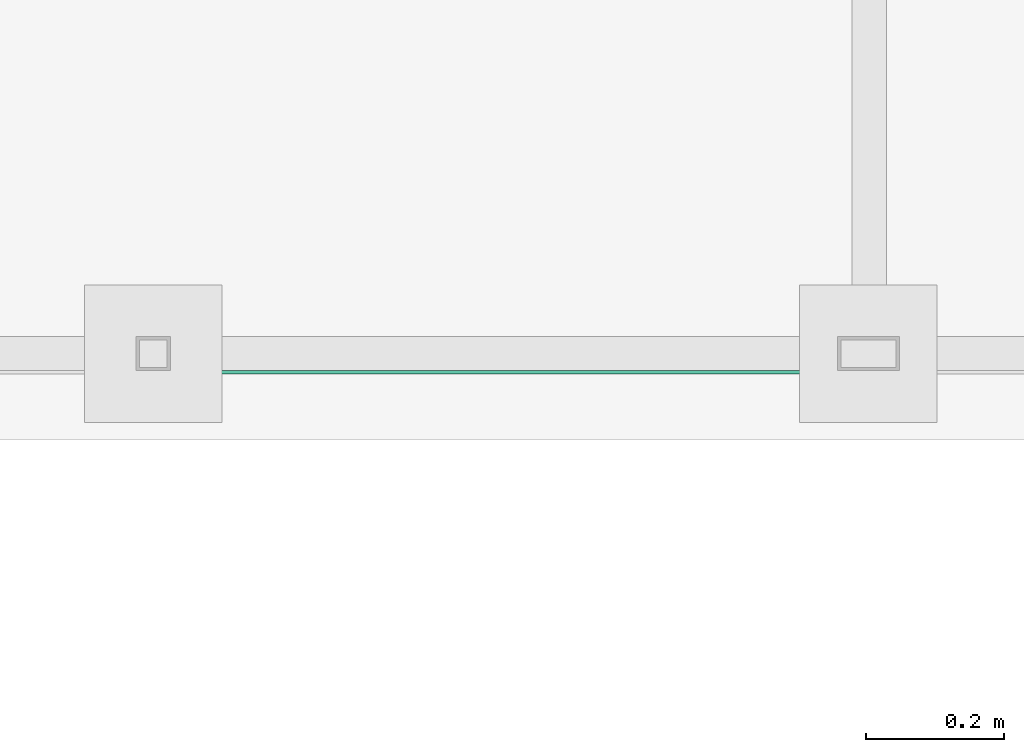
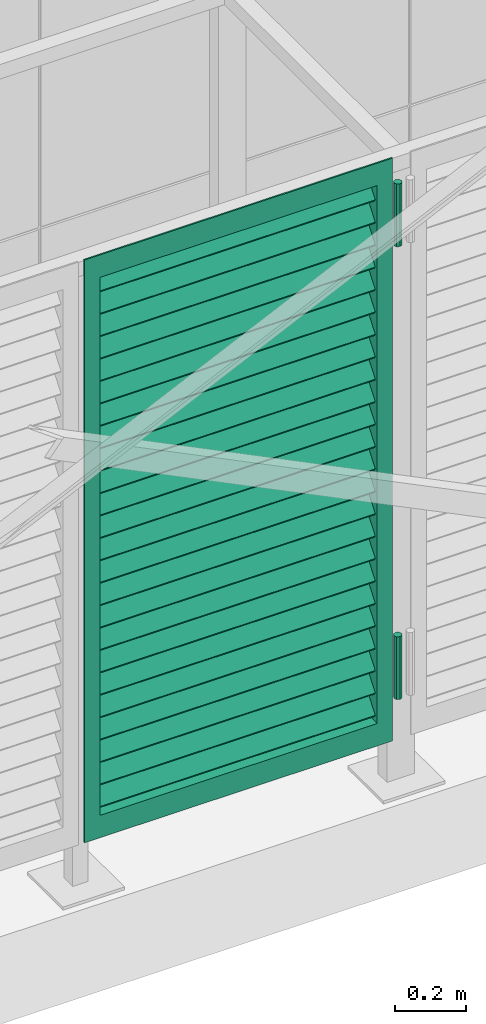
# One storey, part 177 of 418: 1 distribution flow element.
"""IFC2X3 building model written with IfcOpenShell, lengths in millimetres."""

from ifc_helpers import new_model, entity, si_unit, converted_unit, derived_unit, money_unit, direction, frame, origin_with_axes, place, context, subcontext, project, spatial, faceted_brep, source, transform, mapped, material, material_list, type_object, element, save


model = new_model("IFC2X3")

# Units and contexts
model_context = context("Model", 3, precision=0.01, world=origin_with_axes(), true_north=direction((0.0, 1.0)))
body_context = subcontext(model_context, "Body", "Model", "MODEL_VIEW")
ifc_project = project(units=[si_unit("LENGTHUNIT", "METRE", prefix="MILLI"), si_unit("AREAUNIT", "SQUARE_METRE"), si_unit("VOLUMEUNIT", "CUBIC_METRE"), converted_unit("PLANEANGLEUNIT", "DEGREE", entity("IfcPlaneAngleMeasure", 0.0174532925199), si_unit("PLANEANGLEUNIT", "RADIAN"), dimensions=[0, 0, 0, 0, 0, 0, 0]), si_unit("SOLIDANGLEUNIT", "STERADIAN"), money_unit("EUR"), converted_unit("TIMEUNIT", "Year", entity("IfcTimeMeasure", 31556926.0), si_unit("TIMEUNIT", "SECOND"), dimensions=[0, 0, 1, 0, 0, 0, 0]), si_unit("MASSUNIT", "GRAM", prefix="KILO"), si_unit("THERMODYNAMICTEMPERATUREUNIT", "DEGREE_CELSIUS"), si_unit("LUMINOUSINTENSITYUNIT", "LUMEN"), si_unit("ENERGYUNIT", "JOULE", prefix="MEGA"), derived_unit("THERMALCONDUCTANCEUNIT", [(si_unit("POWERUNIT", "WATT"), 1), (si_unit("LENGTHUNIT", "METRE"), -1), (si_unit("THERMODYNAMICTEMPERATUREUNIT", "KELVIN"), -1)]), derived_unit("SPECIFICHEATCAPACITYUNIT", [(si_unit("ENERGYUNIT", "JOULE"), 1), (si_unit("MASSUNIT", "GRAM", prefix="KILO"), -1), (si_unit("THERMODYNAMICTEMPERATUREUNIT", "KELVIN"), -1)]), derived_unit("MASSDENSITYUNIT", [(si_unit("MASSUNIT", "GRAM", prefix="KILO"), 1), (si_unit("VOLUMEUNIT", "CUBIC_METRE"), -1)])], contexts=[model_context])

# Site, building, storey
site_placement = place(None, origin_with_axes())
site = spatial("IfcSite", under=ifc_project, at=site_placement, Name="Paldiski mnt 245/1, Tallinn, Harjumaa", CompositionType="COMPLEX")
building_placement = place(site_placement, origin_with_axes())
building = spatial("IfcBuilding", under=site, at=building_placement, Name="RKAS Hoone üldnimetus (kasutust iseloomustav) -> IFC Project Manager -> SOLIBRI", CompositionType="ELEMENT")
storey_placement = place(building_placement, origin_with_axes())
storey = spatial("IfcBuildingStorey", under=building, at=storey_placement, Name="Esimene korrus", CompositionType="ELEMENT", Elevation=0.0)

# Distribution flow element
ifc_material_1 = material(Name="Teras")
ifc_material_2 = material(Name="ET-05_Teras")
ifc_material_list = material_list([ifc_material_1, ifc_material_2])
valve_type = type_object("IfcValveType", Name="Rest_1", PredefinedType="USERDEFINED")
shared_shape = source(origin_with_axes(), body_context, "Body", "Brep", [
    faceted_brep([(-72.0, 25.0, 2000.0), (-72.0, 30.0, 2000.0), (-72.0, 30.0, 1923.07692308), (-72.0, 30.0, 76.9230769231), (-72.0, 30.0, 0.0), (-72.0, 25.0, 0.0), (-72.0, 25.0, 76.9230769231), (-72.0, 25.0, 1923.07692308), (-22.0, 25.0, 2000.0), (-22.0, 30.0, 2000.0), (-22.0, 30.0, 0.0), (-22.0, 25.0, 0.0)], [[[0, 1, 2, 3, 4, 5, 6, 7]], [[8, 9, 1, 0]], [[1, 9, 10, 4, 3, 2]], [[10, 11, 5, 4]], [[5, 11, 8, 0, 7, 6]], [[8, 11, 10, 9]]]),
    faceted_brep([(-972.0, 30.0, 0.0), (-72.0, 30.0, 0.0), (-72.0, 25.0, 0.0), (-972.0, 25.0, 0.0), (-972.0, 30.0, 76.9230769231), (-72.0, 30.0, 76.9230769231), (-72.0, 25.0, 76.9230769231), (-972.0, 25.0, 76.9230769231)], [[[0, 1, 2, 3]], [[4, 5, 1, 0]], [[1, 5, 6, 2]], [[3, 2, 6, 7]], [[0, 3, 7, 4]], [[7, 6, 5, 4]]]),
    faceted_brep([(-972.0, 30.0, 0.0), (-1022.0, 30.0, 0.0), (-1022.0, 30.0, 2000.0), (-972.0, 30.0, 2000.0), (-972.0, 30.0, 1923.07692308), (-972.0, 30.0, 76.9230769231), (-1022.0, 25.0, 0.0), (-972.0, 25.0, 0.0), (-1022.0, 25.0, 2000.0), (-972.0, 25.0, 2000.0), (-972.0, 25.0, 1923.07692308), (-972.0, 25.0, 76.9230769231)], [[[0, 1, 2, 3, 4, 5]], [[6, 1, 0, 7]], [[8, 2, 1, 6]], [[2, 8, 9, 3]], [[7, 0, 5, 4, 3, 9, 10, 11]], [[9, 8, 6, 7, 11, 10]]]),
    faceted_brep([(-977.0, 30.0, 76.9230769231), (-977.0, 80.0, 76.9230769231), (-972.0, 80.0, 76.9230769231), (-972.0, 30.0, 76.9230769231), (-977.0, 30.0, 1923.07692308), (-977.0, 80.0, 1923.07692308), (-972.0, 80.0, 1923.07692308), (-972.0, 30.0, 1923.07692308)], [[[0, 1, 2, 3]], [[4, 5, 1, 0]], [[5, 6, 2, 1]], [[3, 2, 6, 7]], [[4, 0, 3, 7]], [[7, 6, 5, 4]]]),
    faceted_brep([(-67.0, 30.0, 1923.07692308), (-67.0, 80.0, 1923.07692308), (-72.0, 80.0, 1923.07692308), (-72.0, 30.0, 1923.07692308), (-67.0, 30.0, 76.9230769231), (-67.0, 80.0, 76.9230769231), (-72.0, 80.0, 76.9230769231), (-72.0, 30.0, 76.9230769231)], [[[0, 1, 2, 3]], [[4, 5, 1, 0]], [[5, 6, 2, 1]], [[3, 2, 6, 7]], [[4, 0, 3, 7]], [[7, 6, 5, 4]]]),
    faceted_brep([(-972.0, 30.0, 1923.07692308), (-72.0, 30.0, 1923.07692308), (-72.0, 25.0, 1923.07692308), (-972.0, 25.0, 1923.07692308), (-972.0, 30.0, 2000.0), (-72.0, 30.0, 2000.0), (-72.0, 25.0, 2000.0), (-972.0, 25.0, 2000.0)], [[[0, 1, 2, 3]], [[4, 5, 1, 0]], [[1, 5, 6, 2]], [[3, 2, 6, 7]], [[0, 3, 7, 4]], [[7, 6, 5, 4]]]),
    faceted_brep([(-67.0, 30.0, 69.2307692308), (-67.0, 30.0, 76.9230769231), (-977.0, 30.0, 76.9230769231), (-977.0, 30.0, 69.2307692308), (-67.0, 80.0, 69.2307692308), (-67.0, 80.0, 76.9230769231), (-977.0, 80.0, 76.9230769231), (-977.0, 80.0, 69.2307692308)], [[[0, 1, 2, 3]], [[4, 5, 1, 0]], [[1, 5, 6, 2]], [[3, 2, 6, 7]], [[0, 3, 7, 4]], [[7, 6, 5, 4]]]),
    faceted_brep([(-67.0, 30.0, 1923.07692308), (-67.0, 30.0, 1930.76923077), (-977.0, 30.0, 1930.76923077), (-977.0, 30.0, 1923.07692308), (-67.0, 80.0, 1923.07692308), (-67.0, 80.0, 1930.76923077), (-977.0, 80.0, 1930.76923077), (-977.0, 80.0, 1923.07692308)], [[[0, 1, 2, 3]], [[4, 5, 1, 0]], [[1, 5, 6, 2]], [[3, 2, 6, 7]], [[0, 3, 7, 4]], [[7, 6, 5, 4]]]),
    faceted_brep([(-972.0, 77.3650491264, 141.906873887), (-72.0, 77.3650491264, 141.906873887), (-72.0, 39.0628269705, 92.4616731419), (-972.0, 39.0628269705, 92.4616731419), (-972.0, 74.151111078, 147.799523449), (-72.0, 74.151111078, 147.799523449), (-72.0, 35.848888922, 98.3543227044), (-972.0, 35.848888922, 98.3543227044)], [[[0, 1, 2, 3]], [[4, 5, 1, 0]], [[1, 5, 6, 2]], [[3, 2, 6, 7]], [[0, 3, 7, 4]], [[7, 6, 5, 4]]]),
    faceted_brep([(-972.0, 77.3650491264, 218.82995081), (-72.0, 77.3650491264, 218.82995081), (-72.0, 39.0628269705, 169.384750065), (-972.0, 39.0628269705, 169.384750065), (-972.0, 74.151111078, 224.722600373), (-72.0, 74.151111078, 224.722600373), (-72.0, 35.848888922, 175.277399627), (-972.0, 35.848888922, 175.277399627)], [[[0, 1, 2, 3]], [[4, 5, 1, 0]], [[1, 5, 6, 2]], [[3, 2, 6, 7]], [[0, 3, 7, 4]], [[7, 6, 5, 4]]]),
    faceted_brep([(-972.0, 77.3650491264, 295.753027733), (-72.0, 77.3650491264, 295.753027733), (-72.0, 39.0628269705, 246.307826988), (-972.0, 39.0628269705, 246.307826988), (-972.0, 74.151111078, 301.645677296), (-72.0, 74.151111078, 301.645677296), (-72.0, 35.848888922, 252.200476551), (-972.0, 35.848888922, 252.200476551)], [[[0, 1, 2, 3]], [[4, 5, 1, 0]], [[1, 5, 6, 2]], [[3, 2, 6, 7]], [[0, 3, 7, 4]], [[7, 6, 5, 4]]]),
    faceted_brep([(-972.0, 77.3650491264, 372.676104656), (-72.0, 77.3650491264, 372.676104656), (-72.0, 39.0628269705, 323.230903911), (-972.0, 39.0628269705, 323.230903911), (-972.0, 74.151111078, 378.568754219), (-72.0, 74.151111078, 378.568754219), (-72.0, 35.848888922, 329.123553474), (-972.0, 35.848888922, 329.123553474)], [[[0, 1, 2, 3]], [[4, 5, 1, 0]], [[1, 5, 6, 2]], [[3, 2, 6, 7]], [[0, 3, 7, 4]], [[7, 6, 5, 4]]]),
    faceted_brep([(-972.0, 77.3650491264, 449.599181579), (-72.0, 77.3650491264, 449.599181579), (-72.0, 39.0628269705, 400.153980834), (-972.0, 39.0628269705, 400.153980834), (-972.0, 74.151111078, 455.491831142), (-72.0, 74.151111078, 455.491831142), (-72.0, 35.848888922, 406.046630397), (-972.0, 35.848888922, 406.046630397)], [[[0, 1, 2, 3]], [[4, 5, 1, 0]], [[1, 5, 6, 2]], [[3, 2, 6, 7]], [[0, 3, 7, 4]], [[7, 6, 5, 4]]]),
    faceted_brep([(-972.0, 77.3650491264, 526.522258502), (-72.0, 77.3650491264, 526.522258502), (-72.0, 39.0628269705, 477.077057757), (-972.0, 39.0628269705, 477.077057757), (-972.0, 74.151111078, 532.414908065), (-72.0, 74.151111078, 532.414908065), (-72.0, 35.848888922, 482.96970732), (-972.0, 35.848888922, 482.96970732)], [[[0, 1, 2, 3]], [[4, 5, 1, 0]], [[1, 5, 6, 2]], [[3, 2, 6, 7]], [[0, 3, 7, 4]], [[7, 6, 5, 4]]]),
    faceted_brep([(-972.0, 77.3650491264, 603.445335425), (-72.0, 77.3650491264, 603.445335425), (-72.0, 39.0628269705, 554.00013468), (-972.0, 39.0628269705, 554.00013468), (-972.0, 74.151111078, 609.337984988), (-72.0, 74.151111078, 609.337984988), (-72.0, 35.848888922, 559.892784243), (-972.0, 35.848888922, 559.892784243)], [[[0, 1, 2, 3]], [[4, 5, 1, 0]], [[1, 5, 6, 2]], [[3, 2, 6, 7]], [[0, 3, 7, 4]], [[7, 6, 5, 4]]]),
    faceted_brep([(-972.0, 77.3650491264, 680.368412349), (-72.0, 77.3650491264, 680.368412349), (-72.0, 39.0628269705, 630.923211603), (-972.0, 39.0628269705, 630.923211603), (-972.0, 74.151111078, 686.261061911), (-72.0, 74.151111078, 686.261061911), (-72.0, 35.848888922, 636.815861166), (-972.0, 35.848888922, 636.815861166)], [[[0, 1, 2, 3]], [[4, 5, 1, 0]], [[1, 5, 6, 2]], [[3, 2, 6, 7]], [[0, 3, 7, 4]], [[7, 6, 5, 4]]]),
    faceted_brep([(-972.0, 77.3650491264, 757.291489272), (-72.0, 77.3650491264, 757.291489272), (-72.0, 39.0628269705, 707.846288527), (-972.0, 39.0628269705, 707.846288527), (-972.0, 74.151111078, 763.184138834), (-72.0, 74.151111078, 763.184138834), (-72.0, 35.848888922, 713.738938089), (-972.0, 35.848888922, 713.738938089)], [[[0, 1, 2, 3]], [[4, 5, 1, 0]], [[1, 5, 6, 2]], [[3, 2, 6, 7]], [[0, 3, 7, 4]], [[7, 6, 5, 4]]]),
    faceted_brep([(-972.0, 77.3650491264, 834.214566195), (-72.0, 77.3650491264, 834.214566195), (-72.0, 39.0628269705, 784.76936545), (-972.0, 39.0628269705, 784.76936545), (-972.0, 74.151111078, 840.107215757), (-72.0, 74.151111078, 840.107215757), (-72.0, 35.848888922, 790.662015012), (-972.0, 35.848888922, 790.662015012)], [[[0, 1, 2, 3]], [[4, 5, 1, 0]], [[1, 5, 6, 2]], [[3, 2, 6, 7]], [[0, 3, 7, 4]], [[7, 6, 5, 4]]]),
    faceted_brep([(-972.0, 77.3650491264, 911.137643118), (-72.0, 77.3650491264, 911.137643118), (-72.0, 39.0628269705, 861.692442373), (-972.0, 39.0628269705, 861.692442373), (-972.0, 74.151111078, 917.03029268), (-72.0, 74.151111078, 917.03029268), (-72.0, 35.848888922, 867.585091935), (-972.0, 35.848888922, 867.585091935)], [[[0, 1, 2, 3]], [[4, 5, 1, 0]], [[1, 5, 6, 2]], [[3, 2, 6, 7]], [[0, 3, 7, 4]], [[7, 6, 5, 4]]]),
    faceted_brep([(-972.0, 77.3650491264, 988.060720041), (-72.0, 77.3650491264, 988.060720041), (-72.0, 39.0628269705, 938.615519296), (-972.0, 39.0628269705, 938.615519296), (-972.0, 74.151111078, 993.953369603), (-72.0, 74.151111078, 993.953369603), (-72.0, 35.848888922, 944.508168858), (-972.0, 35.848888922, 944.508168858)], [[[0, 1, 2, 3]], [[4, 5, 1, 0]], [[1, 5, 6, 2]], [[3, 2, 6, 7]], [[0, 3, 7, 4]], [[7, 6, 5, 4]]]),
    faceted_brep([(-972.0, 77.3650491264, 1064.98379696), (-72.0, 77.3650491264, 1064.98379696), (-72.0, 39.0628269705, 1015.53859622), (-972.0, 39.0628269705, 1015.53859622), (-972.0, 74.151111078, 1070.87644653), (-72.0, 74.151111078, 1070.87644653), (-72.0, 35.848888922, 1021.43124578), (-972.0, 35.848888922, 1021.43124578)], [[[0, 1, 2, 3]], [[4, 5, 1, 0]], [[1, 5, 6, 2]], [[3, 2, 6, 7]], [[0, 3, 7, 4]], [[7, 6, 5, 4]]]),
    faceted_brep([(-972.0, 77.3650491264, 1141.90687389), (-72.0, 77.3650491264, 1141.90687389), (-72.0, 39.0628269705, 1092.46167314), (-972.0, 39.0628269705, 1092.46167314), (-972.0, 74.151111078, 1147.79952345), (-72.0, 74.151111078, 1147.79952345), (-72.0, 35.848888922, 1098.3543227), (-972.0, 35.848888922, 1098.3543227)], [[[0, 1, 2, 3]], [[4, 5, 1, 0]], [[1, 5, 6, 2]], [[3, 2, 6, 7]], [[0, 3, 7, 4]], [[7, 6, 5, 4]]]),
    faceted_brep([(-972.0, 77.3650491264, 1218.82995081), (-72.0, 77.3650491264, 1218.82995081), (-72.0, 39.0628269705, 1169.38475006), (-972.0, 39.0628269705, 1169.38475006), (-972.0, 74.151111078, 1224.72260037), (-72.0, 74.151111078, 1224.72260037), (-72.0, 35.848888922, 1175.27739963), (-972.0, 35.848888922, 1175.27739963)], [[[0, 1, 2, 3]], [[4, 5, 1, 0]], [[1, 5, 6, 2]], [[3, 2, 6, 7]], [[0, 3, 7, 4]], [[7, 6, 5, 4]]]),
    faceted_brep([(-972.0, 77.3650491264, 1295.75302773), (-72.0, 77.3650491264, 1295.75302773), (-72.0, 39.0628269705, 1246.30782699), (-972.0, 39.0628269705, 1246.30782699), (-972.0, 74.151111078, 1301.6456773), (-72.0, 74.151111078, 1301.6456773), (-72.0, 35.848888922, 1252.20047655), (-972.0, 35.848888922, 1252.20047655)], [[[0, 1, 2, 3]], [[4, 5, 1, 0]], [[1, 5, 6, 2]], [[3, 2, 6, 7]], [[0, 3, 7, 4]], [[7, 6, 5, 4]]]),
    faceted_brep([(-972.0, 77.3650491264, 1372.67610466), (-72.0, 77.3650491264, 1372.67610466), (-72.0, 39.0628269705, 1323.23090391), (-972.0, 39.0628269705, 1323.23090391), (-972.0, 74.151111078, 1378.56875422), (-72.0, 74.151111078, 1378.56875422), (-72.0, 35.848888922, 1329.12355347), (-972.0, 35.848888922, 1329.12355347)], [[[0, 1, 2, 3]], [[4, 5, 1, 0]], [[1, 5, 6, 2]], [[3, 2, 6, 7]], [[0, 3, 7, 4]], [[7, 6, 5, 4]]]),
    faceted_brep([(-972.0, 77.3650491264, 1449.59918158), (-72.0, 77.3650491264, 1449.59918158), (-72.0, 39.0628269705, 1400.15398083), (-972.0, 39.0628269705, 1400.15398083), (-972.0, 74.151111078, 1455.49183114), (-72.0, 74.151111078, 1455.49183114), (-72.0, 35.848888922, 1406.0466304), (-972.0, 35.848888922, 1406.0466304)], [[[0, 1, 2, 3]], [[4, 5, 1, 0]], [[1, 5, 6, 2]], [[3, 2, 6, 7]], [[0, 3, 7, 4]], [[7, 6, 5, 4]]]),
    faceted_brep([(-972.0, 77.3650491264, 1526.5222585), (-72.0, 77.3650491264, 1526.5222585), (-72.0, 39.0628269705, 1477.07705776), (-972.0, 39.0628269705, 1477.07705776), (-972.0, 74.151111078, 1532.41490806), (-72.0, 74.151111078, 1532.41490806), (-72.0, 35.848888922, 1482.96970732), (-972.0, 35.848888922, 1482.96970732)], [[[0, 1, 2, 3]], [[4, 5, 1, 0]], [[1, 5, 6, 2]], [[3, 2, 6, 7]], [[0, 3, 7, 4]], [[7, 6, 5, 4]]]),
    faceted_brep([(-972.0, 77.3650491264, 1603.44533543), (-72.0, 77.3650491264, 1603.44533543), (-72.0, 39.0628269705, 1554.00013468), (-972.0, 39.0628269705, 1554.00013468), (-972.0, 74.151111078, 1609.33798499), (-72.0, 74.151111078, 1609.33798499), (-72.0, 35.848888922, 1559.89278424), (-972.0, 35.848888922, 1559.89278424)], [[[0, 1, 2, 3]], [[4, 5, 1, 0]], [[1, 5, 6, 2]], [[3, 2, 6, 7]], [[0, 3, 7, 4]], [[7, 6, 5, 4]]]),
    faceted_brep([(-972.0, 77.3650491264, 1680.36841235), (-72.0, 77.3650491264, 1680.36841235), (-72.0, 39.0628269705, 1630.9232116), (-972.0, 39.0628269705, 1630.9232116), (-972.0, 74.151111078, 1686.26106191), (-72.0, 74.151111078, 1686.26106191), (-72.0, 35.848888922, 1636.81586117), (-972.0, 35.848888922, 1636.81586117)], [[[0, 1, 2, 3]], [[4, 5, 1, 0]], [[1, 5, 6, 2]], [[3, 2, 6, 7]], [[0, 3, 7, 4]], [[7, 6, 5, 4]]]),
    faceted_brep([(-972.0, 77.3650491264, 1757.29148927), (-72.0, 77.3650491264, 1757.29148927), (-72.0, 39.0628269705, 1707.84628853), (-972.0, 39.0628269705, 1707.84628853), (-972.0, 74.151111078, 1763.18413883), (-72.0, 74.151111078, 1763.18413883), (-72.0, 35.848888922, 1713.73893809), (-972.0, 35.848888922, 1713.73893809)], [[[0, 1, 2, 3]], [[4, 5, 1, 0]], [[1, 5, 6, 2]], [[3, 2, 6, 7]], [[0, 3, 7, 4]], [[7, 6, 5, 4]]]),
    faceted_brep([(-972.0, 77.3650491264, 1834.21456619), (-72.0, 77.3650491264, 1834.21456619), (-72.0, 39.0628269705, 1784.76936545), (-972.0, 39.0628269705, 1784.76936545), (-972.0, 74.151111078, 1840.10721576), (-72.0, 74.151111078, 1840.10721576), (-72.0, 35.848888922, 1790.66201501), (-972.0, 35.848888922, 1790.66201501)], [[[0, 1, 2, 3]], [[4, 5, 1, 0]], [[1, 5, 6, 2]], [[3, 2, 6, 7]], [[0, 3, 7, 4]], [[7, 6, 5, 4]]]),
    faceted_brep([(-972.0, 77.3650491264, 1911.13764312), (-72.0, 77.3650491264, 1911.13764312), (-72.0, 39.0628269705, 1861.69244237), (-972.0, 39.0628269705, 1861.69244237), (-972.0, 74.151111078, 1917.03029268), (-72.0, 74.151111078, 1917.03029268), (-72.0, 35.848888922, 1867.58509194), (-972.0, 35.848888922, 1867.58509194)], [[[0, 1, 2, 3]], [[4, 5, 1, 0]], [[1, 5, 6, 2]], [[3, 2, 6, 7]], [[0, 3, 7, 4]], [[7, 6, 5, 4]]]),
    faceted_brep([(0.0, 12.5, 153.846153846), (0.0, 12.5, 369.230769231), (-3.66116523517, 3.66116523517, 369.230769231), (-3.66116523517, 3.66116523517, 153.846153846), (-3.66116523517, 21.3388347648, 153.846153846), (-3.66116523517, 21.3388347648, 369.230769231), (-12.5, 25.0, 369.230769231), (-21.3388347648, 21.3388347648, 369.230769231), (-25.0, 12.5, 369.230769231), (-21.3388347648, 3.66116523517, 369.230769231), (-12.5, 0.0, 369.230769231), (-12.5, 0.0, 153.846153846), (-21.3388347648, 3.66116523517, 153.846153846), (-25.0, 12.5, 153.846153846), (-21.3388347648, 21.3388347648, 153.846153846), (-12.5, 25.0, 153.846153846)], [[[0, 1, 2, 3]], [[4, 5, 1, 0]], [[1, 5, 6, 7, 8, 9, 10, 2]], [[3, 2, 10, 11]], [[0, 3, 11, 12, 13, 14, 15, 4]], [[15, 6, 5, 4]], [[14, 7, 6, 15]], [[13, 8, 7, 14]], [[12, 9, 8, 13]], [[11, 10, 9, 12]]]),
    faceted_brep([(0.0, 12.5, 1707.69230769), (0.0, 12.5, 1923.07692308), (-3.66116523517, 3.66116523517, 1923.07692308), (-3.66116523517, 3.66116523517, 1707.69230769), (-3.66116523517, 21.3388347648, 1707.69230769), (-3.66116523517, 21.3388347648, 1923.07692308), (-12.5, 25.0, 1923.07692308), (-21.3388347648, 21.3388347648, 1923.07692308), (-25.0, 12.5, 1923.07692308), (-21.3388347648, 3.66116523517, 1923.07692308), (-12.5, 0.0, 1923.07692308), (-12.5, 0.0, 1707.69230769), (-21.3388347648, 3.66116523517, 1707.69230769), (-25.0, 12.5, 1707.69230769), (-21.3388347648, 21.3388347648, 1707.69230769), (-12.5, 25.0, 1707.69230769)], [[[0, 1, 2, 3]], [[4, 5, 1, 0]], [[1, 5, 6, 7, 8, 9, 10, 2]], [[3, 2, 10, 11]], [[0, 3, 11, 12, 13, 14, 15, 4]], [[15, 6, 5, 4]], [[14, 7, 6, 15]], [[13, 8, 7, 14]], [[12, 9, 8, 13]], [[11, 10, 9, 12]]]),
])
distribution_flow_element_placement = place(storey_placement, frame((-51657.3280742, -1585.71022117, 0.0), z_axis=(0.0, 0.0, 1.0), x_axis=(1.0, 0.0, 0.0)))
element("IfcDistributionFlowElement", 1, at=distribution_flow_element_placement, inside=storey, type_object=valve_type, material=ifc_material_list, Name="Trapp", ObjectType="Distribution Flow Element", context=body_context, shape_type="MappedRepresentation", body=[
    mapped(shared_shape, transform((0.0, 0.0, 0.0))),
])

save(model, "model.ifc")
